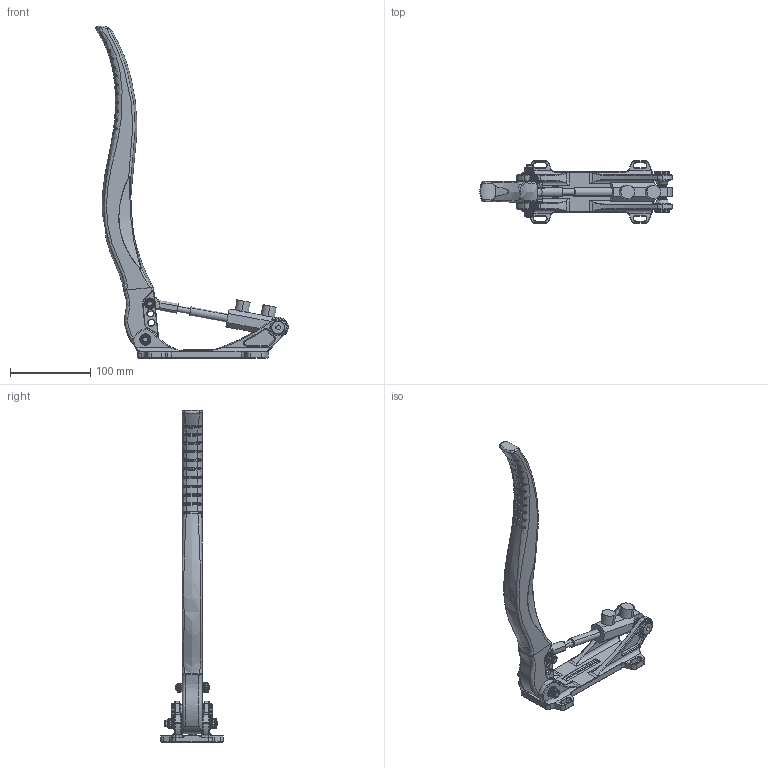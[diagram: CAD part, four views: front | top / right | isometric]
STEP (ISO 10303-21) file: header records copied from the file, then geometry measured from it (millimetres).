
FILE_DESCRIPTION (( 'STEP AP203' ), '1' );
FILE_NAME ('assy organiska spaken.STEP', '2026-05-05T09:00:06', ( '' ), ( '' ), 'SwSTEP 2.0', 'SolidWorks 2026', '' );
FILE_SCHEMA (( 'CONFIG_CONTROL_DESIGN' ));
Products named in the file (1): assy organiska spaken
Bounding box: 239.04 x 78 x 412.53 mm (x, y, z)
Volume: 417509.1 mm3; surface area: 112214.9 mm2
Topology: 22 solids, 22 shells, 2332 faces, 5551 edges, 3075 vertices
Faces by surface type: bspline 708, cylinder 639, plane 433, cone 262, torus 213, sphere 77
Entity records: 105510 total; most frequent: CARTESIAN_POINT 58736, ORIENTED_EDGE 10658, DIRECTION 8440, EDGE_CURVE 5329, AXIS2_PLACEMENT_3D 3435, VERTEX_POINT 3065, EDGE_LOOP 2418, FACE_OUTER_BOUND 2332
